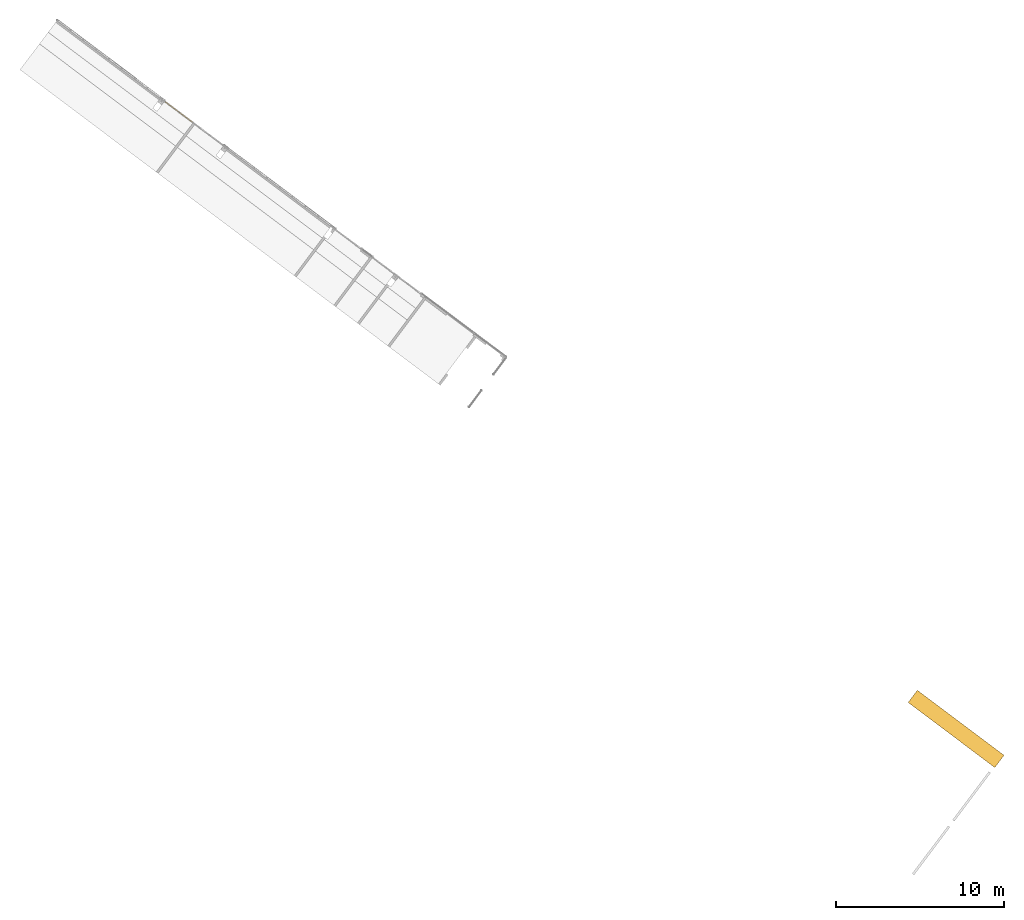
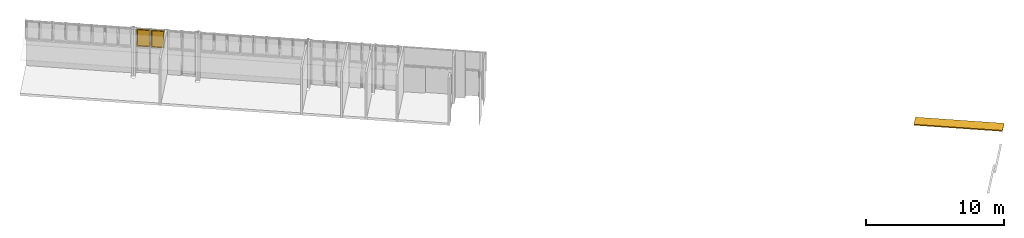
# One storey, part 9 of 18: 2 windows, 1 door, 1 element without a shape of its own.
"""IFC2X3 building model written with IfcOpenShell, lengths in metres."""

from ifc_helpers import new_model, entity, si_unit, converted_unit, derived_unit, direction, frame, frame_2d, origin, place, context, subcontext, project, spatial, polyline, rectangle, outline, extrude, faceted_brep, source, transform, mapped, material, material_list, type_object, type_shapes, element, aggregate, save


model = new_model("IFC2X3")

# Units and contexts
model_context = context("Model", 3, precision=1e-05, world=origin(), true_north=direction((6.123031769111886e-17, 1.0)))
body_context = subcontext(model_context, "Body", "Model", "MODEL_VIEW")
ifc_project = project(units=[si_unit("LENGTHUNIT", "METRE"), si_unit("AREAUNIT", "SQUARE_METRE"), si_unit("VOLUMEUNIT", "CUBIC_METRE"), converted_unit("PLANEANGLEUNIT", "DEGREE", entity("IfcRatioMeasure", 0.017453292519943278), si_unit("PLANEANGLEUNIT", "RADIAN"), dimensions=[0, 0, 0, 0, 0, 0, 0]), si_unit("MASSUNIT", "GRAM", prefix="KILO"), derived_unit("MASSDENSITYUNIT", [(si_unit("MASSUNIT", "GRAM", prefix="KILO"), 1), (si_unit("LENGTHUNIT", "METRE"), -3)]), derived_unit("IONCONCENTRATIONUNIT", [(si_unit("MASSUNIT", "GRAM", prefix="KILO"), 1), (si_unit("LENGTHUNIT", "METRE"), -3)]), derived_unit("MOMENTOFINERTIAUNIT", [(si_unit("LENGTHUNIT", "METRE"), 4)]), si_unit("TIMEUNIT", "SECOND"), si_unit("FREQUENCYUNIT", "HERTZ"), si_unit("THERMODYNAMICTEMPERATUREUNIT", "DEGREE_CELSIUS"), derived_unit("THERMALTRANSMITTANCEUNIT", [(si_unit("MASSUNIT", "GRAM", prefix="KILO"), 1), (si_unit("THERMODYNAMICTEMPERATUREUNIT", "KELVIN"), -1), (si_unit("TIMEUNIT", "SECOND"), -3)]), derived_unit("THERMALCONDUCTANCEUNIT", [(si_unit("MASSUNIT", "GRAM", prefix="KILO"), 1), (si_unit("THERMODYNAMICTEMPERATUREUNIT", "KELVIN"), -1), (si_unit("TIMEUNIT", "SECOND"), -3), (si_unit("LENGTHUNIT", "METRE"), 1)]), derived_unit("VOLUMETRICFLOWRATEUNIT", [(si_unit("LENGTHUNIT", "METRE"), 3), (si_unit("TIMEUNIT", "SECOND"), -1)]), derived_unit("MASSFLOWRATEUNIT", [(si_unit("MASSUNIT", "GRAM", prefix="KILO"), 1), (si_unit("TIMEUNIT", "SECOND"), -1)]), derived_unit("ROTATIONALFREQUENCYUNIT", [(si_unit("TIMEUNIT", "SECOND"), -1)]), si_unit("ELECTRICCURRENTUNIT", "AMPERE"), si_unit("ELECTRICVOLTAGEUNIT", "VOLT"), si_unit("POWERUNIT", "WATT"), si_unit("FORCEUNIT", "NEWTON", prefix="KILO"), si_unit("ILLUMINANCEUNIT", "LUX"), si_unit("LUMINOUSFLUXUNIT", "LUMEN"), si_unit("LUMINOUSINTENSITYUNIT", "CANDELA"), derived_unit("USERDEFINED", [(si_unit("MASSUNIT", "GRAM", prefix="KILO"), -1), (si_unit("LENGTHUNIT", "METRE"), -2), (si_unit("TIMEUNIT", "SECOND"), 3), (si_unit("LUMINOUSFLUXUNIT", "LUMEN"), 1)]), derived_unit("USERDEFINED", [(si_unit("MASSUNIT", "GRAM", prefix="KILO"), 1), (si_unit("TIMEUNIT", "SECOND"), -3), (si_unit("LENGTHUNIT", "METRE"), 3), (si_unit("ELECTRICCURRENTUNIT", "AMPERE"), -2)]), derived_unit("SOUNDPOWERUNIT", [(si_unit("MASSUNIT", "GRAM", prefix="KILO"), 1), (si_unit("TIMEUNIT", "SECOND"), -3), (si_unit("LENGTHUNIT", "METRE"), 2)]), derived_unit("SOUNDPRESSUREUNIT", [(si_unit("MASSUNIT", "GRAM", prefix="KILO"), 1), (si_unit("LENGTHUNIT", "METRE"), -1), (si_unit("TIMEUNIT", "SECOND"), -2)]), derived_unit("LINEARVELOCITYUNIT", [(si_unit("LENGTHUNIT", "METRE"), 1), (si_unit("TIMEUNIT", "SECOND"), -1)]), si_unit("PRESSUREUNIT", "PASCAL"), derived_unit("USERDEFINED", [(si_unit("MASSUNIT", "GRAM", prefix="KILO"), 1), (si_unit("LENGTHUNIT", "METRE"), -2), (si_unit("TIMEUNIT", "SECOND"), -2)]), derived_unit("LINEARFORCEUNIT", [(si_unit("MASSUNIT", "GRAM", prefix="KILO"), 1), (si_unit("TIMEUNIT", "SECOND"), -2)]), derived_unit("PLANARFORCEUNIT", [(si_unit("MASSUNIT", "GRAM", prefix="KILO"), 1), (si_unit("LENGTHUNIT", "METRE"), -1), (si_unit("TIMEUNIT", "SECOND"), -2)]), derived_unit("SPECIFICHEATCAPACITYUNIT", [(si_unit("THERMODYNAMICTEMPERATUREUNIT", "KELVIN"), -1), (si_unit("LENGTHUNIT", "METRE"), 2), (si_unit("TIMEUNIT", "SECOND"), -2)]), derived_unit("HEATINGVALUEUNIT", [(si_unit("LENGTHUNIT", "METRE"), 2), (si_unit("TIMEUNIT", "SECOND"), -2)]), derived_unit("VAPORPERMEABILITYUNIT", [(si_unit("LENGTHUNIT", "METRE"), -1), (si_unit("TIMEUNIT", "SECOND"), 1)]), derived_unit("DYNAMICVISCOSITYUNIT", [(si_unit("MASSUNIT", "GRAM", prefix="KILO"), 1), (si_unit("TIMEUNIT", "SECOND"), -1), (si_unit("LENGTHUNIT", "METRE"), -1)]), derived_unit("THERMALEXPANSIONCOEFFICIENTUNIT", [(si_unit("THERMODYNAMICTEMPERATUREUNIT", "KELVIN"), -1)]), derived_unit("MODULUSOFELASTICITYUNIT", [(si_unit("MASSUNIT", "GRAM", prefix="KILO"), 1), (si_unit("LENGTHUNIT", "METRE"), -1), (si_unit("TIMEUNIT", "SECOND"), -2)]), derived_unit("ISOTHERMALMOISTURECAPACITYUNIT", [(si_unit("LENGTHUNIT", "METRE"), 3), (si_unit("MASSUNIT", "GRAM", prefix="KILO"), -1)]), derived_unit("MOISTUREDIFFUSIVITYUNIT", [(si_unit("TIMEUNIT", "SECOND"), -1), (si_unit("LENGTHUNIT", "METRE"), 2)])], contexts=[model_context])

# Site, building, storey
site_placement = place(None, frame((0.0, 0.0, 235.0), z_axis=(0.0, 0.0, 1.0), x_axis=(-0.7996477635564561, 0.6004693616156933, 0.0)))
site = spatial("IfcSite", under=ifc_project, at=site_placement, Name="Default", CompositionType="ELEMENT")
building_placement = place(site_placement, origin())
building = spatial("IfcBuilding", under=site, at=building_placement, CompositionType="ELEMENT")
storey_placement = place(building_placement, frame((0.0, 0.0, -4.459999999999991)))
storey = spatial("IfcBuildingStorey", under=building, at=storey_placement, Name="PS1- Vestuari", CompositionType="ELEMENT", Elevation=-4.459999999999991)

# Curtain wall, windows
curtain_wall_type = type_object("IfcCurtainWallType", Name="Muro cortina:MC- EXT- AL6", PredefinedType="NOTDEFINED")
curtain_wall_placement = place(storey_placement, frame((0.0, 0.0, 4.459999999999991)))
curtain_wall = element("IfcCurtainWall", 1, at=curtain_wall_placement, inside=storey, type_object=curtain_wall_type, Name="Muro cortina:MC- EXT- AL6", ObjectType="Muro cortina:MC- EXT- AL6")
ifc_material_1 = material(Name="_Vidre")
ifc_material_2 = material(Name="_Alumini- T1- Perfil")
ifc_material_list_1 = material_list([ifc_material_1, ifc_material_2])
window_style = type_object("IfcWindowStyle", Name="MC- Alu- Conjunt finestra basculant- 68x68 cm:MC- Alu- Conjunt finestra basculant- 68x68 cm", ConstructionType="NOTDEFINED", OperationType="NOTDEFINED", ParameterTakesPrecedence=False, Sizeable=False, material=ifc_material_list_1)
shared_shape_1 = source(origin(), body_context, "Body", "Brep", [
    faceted_brep([(0.4429117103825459, -0.03559830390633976, 0.051999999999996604), (-0.4429117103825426, -0.0355983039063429, 0.051999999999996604), (-0.44291171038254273, -0.0115981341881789, 0.051999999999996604), (0.44291171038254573, -0.011598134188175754, 0.051999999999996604), (0.4429117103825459, -0.03559830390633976, 1.4953027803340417), (0.44291171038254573, -0.011598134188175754, 1.4953027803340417), (-0.4429117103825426, -0.0115981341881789, 1.4953027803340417), (-0.4429117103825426, -0.0355983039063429, 1.4953027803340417)], [[[0, 1, 2, 3]], [[4, 0, 3, 5]], [[5, 3, 2, 6]], [[6, 2, 1, 7]], [[7, 1, 0, 4]], [[4, 5, 6, 7]]]),
    faceted_brep([(-0.4272108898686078, -0.009998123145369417, 1.4796019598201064), (-0.4272108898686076, -0.009998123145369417, 0.06789804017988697), (-0.4272108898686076, -0.007998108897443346, 0.06789804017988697), (-0.4272108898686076, -0.007998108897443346, 1.4796019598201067), (-0.4561089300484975, -0.007998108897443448, 1.5084999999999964), (0.4561089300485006, -0.007998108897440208, 1.5084999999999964), (0.4561089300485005, -0.007998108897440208, 0.03899999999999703), (-0.4561089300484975, -0.007998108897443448, 0.03899999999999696), (0.4272108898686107, -0.00799810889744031, 1.4796019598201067), (0.4272108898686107, -0.00799810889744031, 0.06789804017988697), (0.4272108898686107, -0.009998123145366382, 0.06789804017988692), (0.4272108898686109, -0.009998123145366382, 1.4796019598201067), (0.44291171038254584, -0.009998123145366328, 1.4953027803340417), (-0.44291171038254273, -0.009998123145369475, 1.4953027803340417), (-0.44291171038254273, -0.009998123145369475, 0.05219721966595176), (0.44291171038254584, -0.009998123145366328, 0.05219721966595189), (-0.44291171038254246, -0.04079986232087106, 1.4953027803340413), (-0.44291171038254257, -0.04079986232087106, 0.05219721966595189), (0.44291171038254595, -0.04079986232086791, 0.05219721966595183), (0.44291171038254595, -0.04079986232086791, 1.4953027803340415), (0.4272108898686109, -0.040799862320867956, 1.4796019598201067), (-0.4272108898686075, -0.040799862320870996, 1.4796019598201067), (-0.4272108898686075, -0.040799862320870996, 0.06789804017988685), (0.4272108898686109, -0.040799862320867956, 0.06789804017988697), (-0.42721088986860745, -0.06800005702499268, 1.4796019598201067), (-0.42721088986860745, -0.06800005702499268, 0.06789804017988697), (0.427210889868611, -0.06800005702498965, 0.06789804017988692), (0.42721088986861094, -0.06800005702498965, 1.4796019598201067), (0.47361289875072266, -0.06800005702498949, 1.5260039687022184), (-0.4736128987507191, -0.06800005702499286, 1.5260039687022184), (-0.4736128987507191, -0.06800005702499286, 0.021496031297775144), (0.47361289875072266, -0.06800005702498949, 0.021496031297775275), (-0.4736128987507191, -0.06450003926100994, 1.5260039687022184), (-0.4736128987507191, -0.06450003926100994, 0.021496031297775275), (0.47361289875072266, -0.06450003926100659, 0.021496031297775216), (0.47361289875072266, -0.06450003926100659, 1.5260039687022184), (0.45610893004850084, -0.06450003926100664, 1.5084999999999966), (-0.4561089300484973, -0.06450003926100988, 1.5084999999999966), (-0.4561089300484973, -0.06450003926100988, 0.03899999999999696), (0.45610893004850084, -0.06450003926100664, 0.03899999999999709)], [[[0, 1, 2, 3]], [[4, 5, 6, 7], [8, 3, 2, 9]], [[1, 10, 9, 2]], [[0, 11, 10, 1], [12, 13, 14, 15]], [[16, 17, 14, 13]], [[17, 18, 15, 14]], [[16, 19, 18, 17], [20, 21, 22, 23]], [[24, 25, 22, 21]], [[25, 26, 23, 22]], [[24, 27, 26, 25], [28, 29, 30, 31]], [[32, 33, 30, 29]], [[33, 34, 31, 30]], [[32, 35, 34, 33], [36, 37, 38, 39]], [[4, 7, 38, 37]], [[7, 6, 39, 38]], [[10, 11, 8, 9]], [[18, 19, 12, 15]], [[26, 27, 20, 23]], [[34, 35, 28, 31]], [[6, 5, 36, 39]], [[11, 0, 3, 8]], [[19, 16, 13, 12]], [[27, 24, 21, 20]], [[35, 32, 29, 28]], [[5, 4, 37, 36]]], outer=[[True], [True, False], [True], [False, True], [True], [True], [True, False], [True], [True], [False, True], [True], [True], [True, False], [True], [True], [True], [True], [True], [True], [True], [True], [True], [True], [True], [True]]),
    faceted_brep([(0.43219318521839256, 0.0, 1.484693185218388), (0.43219318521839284, 0.0, 0.06280681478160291), (0.43219318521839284, -0.0040000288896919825, 0.06280681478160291), (0.43219318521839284, -0.0040000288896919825, 1.4846931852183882), (-0.43219318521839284, -0.0040000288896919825, 1.4846931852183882), (-0.43219318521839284, -0.0040000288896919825, 0.06280681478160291), (0.46759980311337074, -0.0040000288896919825, 1.5200998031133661), (-0.46759980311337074, -0.0040000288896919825, 1.5200998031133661), (-0.46759980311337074, -0.0040000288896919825, 0.027400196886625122), (0.46759980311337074, -0.0040000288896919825, 0.027400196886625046), (-0.43219318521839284, 0.0, 0.06280681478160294), (-0.43219318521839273, 0.0, 1.4846931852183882), (-0.4949999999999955, 0.0, 1.547499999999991), (0.4949999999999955, 0.0, 1.547499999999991), (0.4949999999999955, 0.0, 0.0), (-0.4949999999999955, 0.0, 0.0), (0.4949999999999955, -0.05999999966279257, 1.547499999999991), (0.4949999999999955, -0.05999999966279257, 0.0), (-0.4949999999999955, -0.05999999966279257, 0.0), (-0.4949999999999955, -0.05999999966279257, 1.547499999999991), (-0.46759980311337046, -0.05999999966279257, 1.520099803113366), (0.46759980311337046, -0.05999999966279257, 1.520099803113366), (0.46759980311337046, -0.05999999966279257, 0.02740019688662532), (-0.46759980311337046, -0.05999999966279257, 0.027400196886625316)], [[[0, 1, 2, 3]], [[4, 3, 2, 5], [6, 7, 8, 9]], [[1, 10, 5, 2]], [[0, 11, 10, 1], [12, 13, 14, 15]], [[16, 17, 14, 13]], [[17, 18, 15, 14]], [[16, 19, 18, 17], [20, 21, 22, 23]], [[6, 9, 22, 21]], [[9, 8, 23, 22]], [[10, 11, 4, 5]], [[18, 19, 12, 15]], [[8, 7, 20, 23]], [[11, 0, 3, 4]], [[19, 16, 13, 12]], [[7, 6, 21, 20]]], outer=[[True], [False, True], [True], [False, True], [True], [True], [True, False], [True], [True], [True], [True], [True], [True], [True], [True]]),
])
type_shapes(window_style, [shared_shape_1])
window_1_placement = place(curtain_wall_placement, frame((64.86014768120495, -40.4651917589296, -2.164999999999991), z_axis=(0.0, 0.0, 1.0), x_axis=(-1.0, 0.0, 0.0)))
window_1 = element("IfcWindow", 2, at=window_1_placement, type_object=window_style, material=ifc_material_list_1, Name="MC- Alu- Conjunt finestra basculant- 68x68 cm:MC- Alu- Conjunt finestra basculant- 68x68 cm", ObjectType="MC- Alu- Conjunt finestra basculant- 68x68 cm:MC- Alu- Conjunt finestra basculant- 68x68 cm", OverallHeight=1.5474999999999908, OverallWidth=0.9899999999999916, context=body_context, shape_type="MappedRepresentation", body=[
    mapped(shared_shape_1, transform((0.0, 0.0, 0.0), scale=1.0)),
])
window_2_placement = place(curtain_wall_placement, frame((65.90014768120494, -40.46519175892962, -2.164999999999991), z_axis=(0.0, 0.0, 1.0), x_axis=(-1.0, 0.0, 0.0)))
window_2 = element("IfcWindow", 3, at=window_2_placement, type_object=window_style, material=ifc_material_list_1, Name="MC- Alu- Conjunt finestra basculant- 68x68 cm:MC- Alu- Conjunt finestra basculant- 68x68 cm", ObjectType="MC- Alu- Conjunt finestra basculant- 68x68 cm:MC- Alu- Conjunt finestra basculant- 68x68 cm", OverallHeight=1.5474999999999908, OverallWidth=0.9899999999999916, context=body_context, shape_type="MappedRepresentation", body=[
    mapped(shared_shape_1, transform((0.0, 0.0, 0.0), scale=1.0)),
])
aggregate(curtain_wall, [window_1, window_2])

# Door
ifc_material_3 = material(Name="_Aillament")
ifc_material_list_2 = material_list([ifc_material_3, ifc_material_2])
door_style = type_object("IfcDoorStyle", Name="MC- Alu- Remats panell opac sostre:MC- Alu- Remats panell opac sostre", ConstructionType="NOTDEFINED", OperationType="NOTDEFINED", ParameterTakesPrecedence=False, Sizeable=False, material=ifc_material_list_2)
shared_shape_2 = source(origin(), body_context, "Body", "SweptSolid", [
    extrude(rectangle(XDim=6.446000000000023, YDim=0.8940000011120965, at=frame_2d((-6.661338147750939e-16, 0.0), x_axis=(1.0, 0.0))), frame((3.22300000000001, 0.4570000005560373, 0.009999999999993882)), (0.0, 0.0, 1.0), 0.06999999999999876),
    extrude(outline(polyline([(-0.45700000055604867, -0.04499999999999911), (0.4570000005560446, -0.04499999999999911), (0.45700000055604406, 0.045000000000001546), (-0.45700000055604, 0.044999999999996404), (-0.45700000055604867, -0.04499999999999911)]), holes=[polyline([(0.44700000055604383, -0.034999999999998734), (-0.4470000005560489, -0.034999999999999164), (-0.44700000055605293, 0.03499999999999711), (0.44700000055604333, 0.03500000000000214), (0.44700000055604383, -0.034999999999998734)])]), frame((0.0, 0.4570000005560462, 0.045000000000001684), z_axis=(1.0, 0.0, 0.0), x_axis=(0.0, 1.0, 0.0)), (0.0, 0.0, 1.0), 6.446000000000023),
])
type_shapes(door_style, [shared_shape_2])
door_placement = place(storey_placement, frame((3.145147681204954, -39.30419176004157, 1.5100000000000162)))
element("IfcDoor", 4, at=door_placement, inside=storey, type_object=door_style, material=ifc_material_list_2, Name="MC- Alu- Remats panell opac sostre:MC- Alu- Remats panell opac sostre", ObjectType="MC- Alu- Remats panell opac sostre:MC- Alu- Remats panell opac sostre", OverallHeight=2.71478054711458, OverallWidth=6.44600000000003, context=body_context, shape_type="MappedRepresentation", body=[
    mapped(shared_shape_2, transform((0.0, 0.0, 0.0), scale=1.0)),
])

save(model, "model.ifc")
